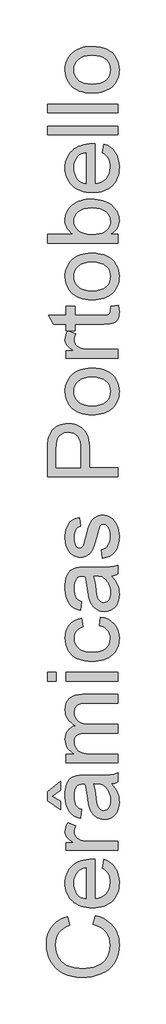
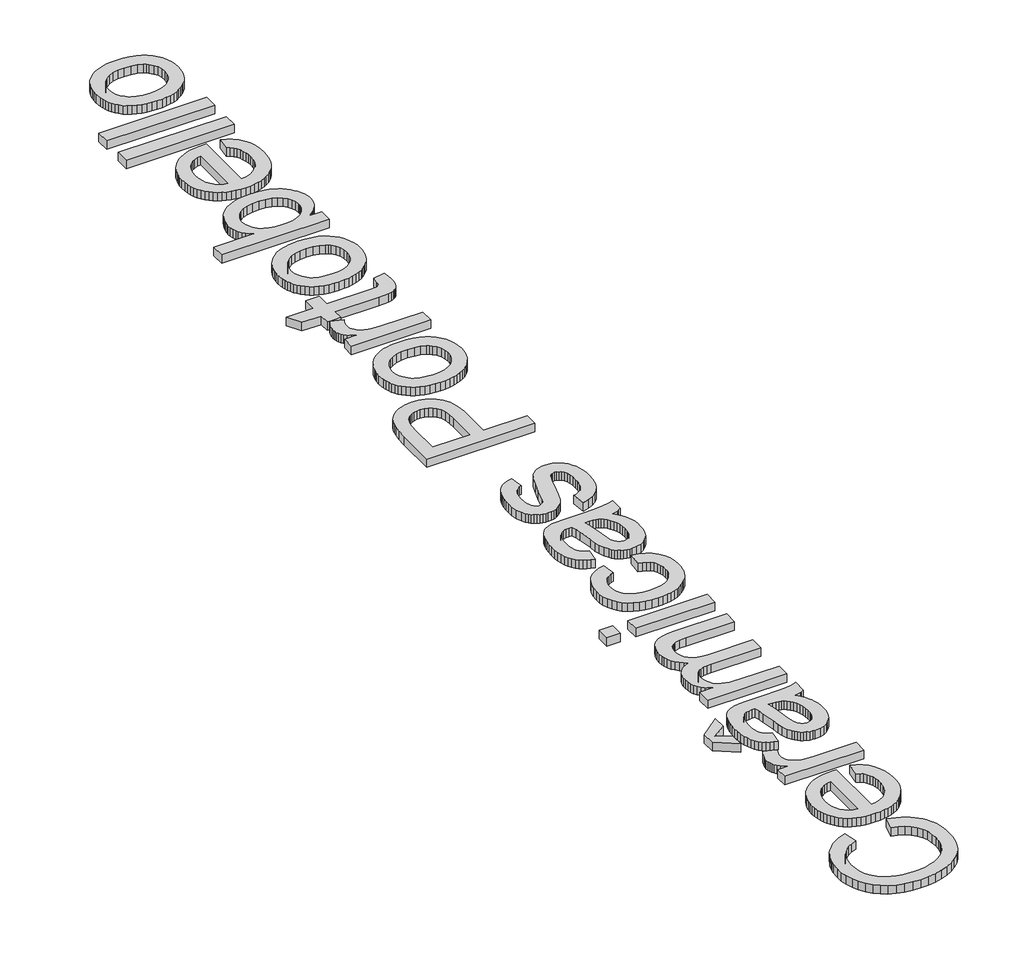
# One storey, part 2 of 4: 1 proxy.
"""IFC4 building model written with IfcOpenShell, lengths in millimetres."""

from ifc_helpers import new_model, si_unit, origin, origin_with_axes, place, context, project, spatial, polyline, outline, extrude, element, save

model = new_model("IFC4")

# Units and contexts
model_context = context("Model", 3, world=origin())
ifc_project = project(units=[si_unit("LENGTHUNIT", "METRE", prefix="MILLI")], contexts=[model_context])

# Site, building, storey
site = spatial("IfcSite", under=ifc_project)
building = spatial("IfcBuilding", under=site)
storey = spatial("IfcBuildingStorey", under=building, Name="PORTOBELLO - SHOWROOM", Elevation=0.0)

# Proxy
placement = place(None, origin())
element("IfcBuildingElementProxy", 1, Name="1200mm Arial", ObjectType="1200mm Arial", at=placement, inside=storey, context=model_context, shape_type="SweptSolid", body=[
    extrude(outline(polyline([(49468.1932002, 14563.7603385), (49507.0415389, 14714.4448038), (49555.3743353, 14700.7733891), (49600.7502802, 14684.6279681), (49643.1693735, 14666.0085406), (49682.6316152, 14644.9151067), (49719.1370055, 14621.3476664), (49752.6855442, 14595.3062196), (49783.2772313, 14566.7907665), (49810.912067, 14535.8013069), (49835.4337012, 14502.6735332), (49856.6857842, 14467.7431378), (49874.668316, 14431.0101206), (49889.3812965, 14392.4744816), (49900.8247258, 14352.1362208), (49908.9986039, 14309.9953383), (49913.9029308, 14266.0518339), (49915.5377064, 14220.3057078), (49910.5896935, 14128.4179825), (49895.745655, 14045.5249719), (49871.0055909, 13971.6266762), (49854.9245492, 13938.0505463), (49836.369501, 13906.7230952), (49792.3524203, 13849.9221151), (49739.4693835, 13800.3316222), (49677.7203906, 13757.9516163), (49607.1054416, 13722.7820976), (49530.6779571, 13695.1633568), (49451.4913577, 13675.4356848), (49369.5456432, 13663.5990816), (49284.8408139, 13659.6535472), (49193.9555669, 13664.1141164), (49109.0667966, 13677.495824), (49030.1745027, 13699.7986699), (48957.2786853, 13731.0226543), (48891.5841581, 13770.4688012), (48834.2957344, 13817.4381349), (48785.4134142, 13871.9306555), (48744.9371977, 13933.9463628), (48713.1981786, 14001.3791325), (48690.5274506, 14072.1228402), (48676.9250139, 14146.1774858), (48672.3908683, 14223.5430694), (48678.2585861, 14309.7286238), (48685.5932334, 14350.1381617), (48695.8617396, 14388.7588734), (48709.0641047, 14425.5907589), (48725.2003287, 14460.6338182), (48744.2704116, 14493.8880513), (48766.2743534, 14525.3534582), (48790.9408412, 14554.7633245), (48817.998562, 14581.8509357), (48847.4475157, 14606.6162917), (48879.2877024, 14629.0593927), (48913.519122, 14649.1802386), (48950.1417746, 14666.9788293), (49030.5607788, 14695.6092456), (49066.4660615, 14544.9247804), (49007.2094691, 14521.1963917), (48956.5797096, 14492.6855371), (48914.5767828, 14459.3922165), (48881.2006887, 14421.31643), (48855.7708458, 14378.2374484), (48837.6066723, 14329.9345424), (48826.7081682, 14276.4077121), (48823.0753335, 14217.6569575), (48827.1036414, 14150.0586409), (48839.1885649, 14088.2360716), (48859.3301041, 14032.1892496), (48887.5282591, 13981.918175), (48922.5138368, 13938.0574441), (48963.0176445, 13901.2416534), (49009.0396821, 13871.470803), (49060.5799496, 13848.7448927), (49115.3023964, 13831.9418826), (49170.8709717, 13819.9397325), (49227.2856757, 13812.7384424), (49284.5465083, 13810.3380124), (49356.5042265, 13813.1799008), (49423.7530552, 13821.7055661), (49486.2929944, 13835.9150081), (49544.1240441, 13855.808227), (49596.0965729, 13881.7071195), (49641.0609498, 13913.9335823), (49679.0171746, 13952.4876154), (49709.9652475, 13997.3692188), (49733.9787447, 14046.3986917), (49751.1312427, 14097.3963333), (49761.4227416, 14150.3621435), (49764.8532412, 14205.2961224), (49760.1811398, 14270.8067087), (49746.1648358, 14331.0749766), (49722.8043291, 14386.100926), (49690.0996197, 14435.884557), (49648.1978605, 14479.2486472), (49597.2462042, 14515.0159742), (49537.2446507, 14543.186538), (49468.1932002, 14563.7603385)])), origin_with_axes(), (0.0, 0.0, 1.0), 100.0),
    extrude(outline(polyline([(49633.0043341, 15522.6079708), (49651.8398922, 15670.34938), (49711.0137112, 15647.6970462), (49763.160984, 15617.1168553), (49808.2817107, 15578.6088075), (49846.3758913, 15532.1729026), (49876.6341854, 15478.2873874), (49898.2472526, 15417.4305084), (49911.2150929, 15349.6022655), (49915.5377064, 15274.8026588), (49913.6730045, 15226.7802629), (49908.0788989, 15181.3054497), (49898.7553896, 15138.3782194), (49885.7024766, 15097.9985719), (49868.9201598, 15060.1665073), (49848.4084393, 15024.8820254), (49824.1673151, 14992.1451264), (49796.1967871, 14961.9558101), (49764.8601389, 14934.8475056), (49730.520654, 14911.3536417), (49693.1783322, 14891.4742184), (49652.8331736, 14875.2092357), (49609.4851783, 14862.5586936), (49563.1343462, 14853.522592), (49513.7806772, 14848.1009311), (49461.4241715, 14846.2937108), (49407.2857374, 14848.1193252), (49356.2651032, 14853.5961684), (49308.3622689, 14862.7242404), (49263.5772345, 14875.5035413), (49221.9100001, 14891.9340709), (49183.3605655, 14912.0158293), (49147.9289308, 14935.7488165), (49115.6150961, 14963.1330325), (49086.7823447, 14993.4281148), (49061.7939602, 15025.8937009), (49040.6499425, 15060.5297907), (49023.3502917, 15097.3363843), (49009.8950077, 15136.3134817), (49000.2840906, 15177.4610829), (48994.5175403, 15220.7791878), (48992.5953569, 15266.2677965), (48994.5129418, 15310.2687824), (49000.2656965, 15352.2142277), (49009.853621, 15392.1041322), (49023.2767153, 15429.9384962), (49040.5349794, 15465.7173195), (49061.6284133, 15499.4406021), (49086.557017, 15531.1083441), (49115.3207905, 15560.7205455), (49147.5610488, 15587.5184496), (49182.9191071, 15610.7432998), (49221.3949653, 15630.3950961), (49262.9886233, 15646.4738385), (49307.7000813, 15658.9795271), (49355.5293392, 15667.9121618), (49406.476397, 15673.2717426), (49460.5412547, 15675.0582696), (49501.155427, 15674.1753528), (49501.155427, 14996.9781761), (49561.2857391, 15005.7061764), (49613.9480467, 15023.0610095), (49659.1423498, 15049.0426754), (49696.8686484, 15083.6511741), (49726.6119078, 15124.9735192), (49747.857093, 15171.0967244), (49760.6042041, 15222.0207896), (49764.8532412, 15277.7457148), (49762.8850725, 15319.4267448), (49756.9805665, 15357.9439897), (49747.1397231, 15393.2974495), (49733.3625424, 15425.487124), (49715.2811423, 15454.5130135), (49692.5276409, 15480.3751177), (49665.1020382, 15503.0734368), (49633.0043341, 15522.6079708)]), holes=[polyline([(49350.4709618, 14996.9781761), (49350.4709618, 15524.3738043), (49307.8334385, 15516.6298883), (49270.861298, 15503.9931418), (49239.5545402, 15486.4635647), (49213.9131652, 15464.0411571), (49183.0110776, 15422.9487383), (49160.9381579, 15376.1909367), (49147.694406, 15323.7677524), (49143.2798221, 15265.6791853), (49146.8022922, 15212.694981), (49157.3697025, 15164.1069665), (49174.982053, 15119.9151418), (49199.6393438, 15080.119507), (49230.2011405, 15046.7250189), (49265.5270091, 15021.7366343), (49305.6169495, 15005.1543534), (49350.4709618, 14996.9781761)])]), origin_with_axes(), (0.0, 0.0, 1.0), 100.0),
    extrude(outline(polyline([(49896.7021482, 15825.7427348), (49011.430915, 15825.7427348), (49011.430915, 15957.5916419), (49142.3969053, 15957.5916419), (49100.5319343, 15982.4236765), (49066.4660615, 16006.299218), (49040.1992871, 16029.2182663), (49021.7316109, 16051.1808214), (49008.9844998, 16073.1801648), (48999.8794204, 16096.2095777), (48994.4163728, 16120.2690601), (48992.5953569, 16145.3586122), (48995.5016246, 16182.7354229), (49004.2204279, 16220.4065392), (49018.7517667, 16258.3719611), (49039.0956411, 16296.6316886), (49174.1819097, 16246.3054317), (49160.6622464, 16219.817928), (49151.005344, 16193.3304244), (49145.2112026, 16166.8429207), (49143.2798221, 16140.3554171), (49145.1376262, 16117.2616248), (49150.7110384, 16095.3634491), (49160.0000588, 16074.6608898), (49173.0046873, 16055.153947), (49189.3018597, 16037.5783847), (49208.4685117, 16022.6699668), (49230.5046432, 16010.4286934), (49255.4102542, 16000.8545645), (49296.5394613, 15990.1675925), (49339.5816547, 15982.5340411), (49431.4050007, 15976.4272), (49896.7021482, 15976.4272), (49896.7021482, 15825.7427348)])), origin_with_axes(), (0.0, 0.0, 1.0), 100.0),
    extrude(outline(polyline([(48766.568659, 16748.6850843), (48917.2531243, 16663.9250726), (48917.2531243, 16513.2406074), (48691.2264264, 16673.3428517), (48691.2264264, 16824.0273169), (48917.2531243, 17002.9651194), (48917.2531243, 16852.2806541), (48766.568659, 16748.6850843)])), origin_with_axes(), (0.0, 0.0, 1.0), 100.0),
    extrude(outline(polyline([(49783.6887993, 16955.876224), (49817.2212432, 16920.1456852), (49845.4193981, 16883.8817175), (49868.2832641, 16847.084321), (49885.8128412, 16809.7534955), (49898.8174697, 16771.4661768), (49908.1064901, 16731.7993007), (49913.6799023, 16690.7528671), (49915.5377064, 16648.326876), (49911.0679401, 16581.2343971), (49897.6586414, 16522.4008691), (49875.3098102, 16471.8262918), (49844.0214465, 16429.5106653), (49805.7801131, 16396.0977831), (49762.5723728, 16372.2314386), (49714.3982255, 16357.911632), (49661.2576713, 16353.1383631), (49629.30712, 16354.9409849), (49598.7913085, 16360.3488502), (49569.7102368, 16369.3619591), (49542.0639049, 16381.9803115), (49516.459318, 16397.5325229), (49493.5034815, 16415.3472085), (49473.1963954, 16435.4243684), (49455.5380596, 16457.7640025), (49426.843264, 16507.6120129), (49406.0947195, 16563.2725587), (49394.5432248, 16617.4983648), (49383.4331886, 16693.6499378), (49359.5944353, 16847.7189174), (49346.1299542, 16907.205436), (49331.6354036, 16954.9933072), (49298.0845657, 16955.876224), (49261.5538836, 16953.2826559), (49230.835737, 16945.5019517), (49205.9301259, 16932.5341114), (49186.8370503, 16914.3791349), (49167.780763, 16882.9988007), (49154.1691292, 16844.7758614), (49146.0021489, 16799.710317), (49143.2798221, 16747.8021675), (49145.0916409, 16699.5360497), (49150.5270974, 16658.0389607), (49159.5861915, 16623.3109003), (49172.2689233, 16595.3518687), (49189.5685741, 16572.3776381), (49212.4784254, 16552.6039809), (49240.9984771, 16536.030897), (49275.1287292, 16522.6583865), (49256.293171, 16371.9739212), (49212.8830956, 16383.4426424), (49173.8876041, 16398.1303311), (49139.3066966, 16416.0369872), (49109.140373, 16437.1626108), (49082.781628, 16462.4177097), (49059.6234564, 16492.7127921), (49039.6658582, 16528.0478577), (49022.9088333, 16568.4229067), (49009.6466874, 16613.0194015), (49000.173726, 16661.0188048), (48994.4899492, 16712.4211166), (48992.5953569, 16767.2263369), (48994.26922, 16820.7991524), (48999.2908092, 16869.0928613), (49007.6601246, 16912.1074636), (49019.3771661, 16949.8429593), (49033.6233964, 16982.612048), (49049.5802779, 17010.7274295), (49067.2478108, 17034.1891037), (49086.6259948, 17052.9970707), (49108.1930768, 17068.2457794), (49132.4273032, 17081.0296787), (49188.8971895, 17099.2030493), (49240.98928, 17104.7212792), (49320.7460966, 17106.5606892), (49508.2187613, 17106.5606892), (49671.521579, 17108.4736756), (49770.0035891, 17114.2126347), (49834.714032, 17125.5434002), (49896.7021482, 17144.2318055), (49896.7021482, 16993.5473403), (49871.5390198, 16980.1564357), (49844.3157521, 16969.4142814), (49783.6887993, 16955.876224)]), holes=[polyline([(49482.3198689, 16955.876224), (49495.3612856, 16910.332433), (49507.4094209, 16854.6350989), (49528.5258475, 16712.7798016), (49540.0773421, 16634.6048776), (49552.9532119, 16583.1381865), (49569.6550545, 16549.4034075), (49592.6844674, 16524.42422), (49620.2756171, 16508.9731762), (49650.6626699, 16503.8228283), (49674.0783588, 16506.6279285), (49695.4706969, 16515.0432292), (49714.8396839, 16529.0687302), (49732.18532, 16548.7044317), (49746.4775355, 16573.7663926), (49756.6862609, 16604.070672), (49762.8114961, 16639.6172698), (49764.8532412, 16680.406186), (49762.5999639, 16722.0504278), (49755.8401323, 16761.3402249), (49744.5737462, 16798.2755772), (49728.8008056, 16832.8564848), (49709.8272917, 16864.052878), (49688.9591856, 16890.8346872), (49666.1964871, 16913.2019125), (49641.5391964, 16931.1545539), (49619.4662767, 16941.5840085), (49592.6844674, 16949.0336189), (49561.1937686, 16953.5033851), (49524.9941803, 16954.9933072), (49482.3198689, 16955.876224)])]), origin_with_axes(), (0.0, 0.0, 1.0), 100.0),
    extrude(outline(polyline([(49896.7021482, 17313.7518289), (49011.430915, 17313.7518289), (49011.430915, 17464.4362941), (49157.1121851, 17464.4362941), (49121.8414988, 17485.4791442), (49090.1944502, 17509.7593559), (49062.1710392, 17537.2769292), (49037.7712659, 17568.031864), (49018.0068057, 17601.5275196), (49003.8893341, 17637.2672554), (48995.4188512, 17675.2510714), (48992.5953569, 17715.4789676), (48995.4740335, 17759.4592601), (49004.1100633, 17799.2824861), (49018.5034464, 17834.9486456), (49038.6541827, 17866.4577384), (49063.9920551, 17893.7177943), (49093.9468466, 17916.6368426), (49128.518557, 17935.2148833), (49167.7071866, 17949.4519166), (49126.6653515, 17975.9486173), (49091.0957611, 18004.3766984), (49060.9984154, 18034.7361601), (49036.3733143, 18067.0270022), (49017.2204579, 18101.2492248), (49003.5398462, 18137.4028279), (48995.3314792, 18175.4878114), (48992.5953569, 18215.5041755), (48997.1478966, 18275.8276256), (49010.8055156, 18328.7750418), (49033.5682141, 18374.3464239), (49065.4359919, 18412.5417721), (49084.8762561, 18428.7170836), (49106.7767311, 18442.7356868), (49157.9583137, 18464.3027688), (49218.9807397, 18477.243018), (49289.844009, 18481.5564344), (49896.7021482, 18481.5564344), (49896.7021482, 18330.8719692), (49354.5912401, 18330.8719692), (49279.4329485, 18327.3770902), (49228.7755978, 18316.8924533), (49210.5010597, 18308.4863497), (49194.0843256, 18297.2475548), (49179.5253957, 18283.1760685), (49166.8242698, 18266.2718908), (49156.5235739, 18247.1512241), (49149.165934, 18226.4302707), (49143.2798221, 18180.1875039), (49147.0506126, 18137.4856013), (49158.3629839, 18098.5544892), (49177.2169362, 18063.3941675), (49203.6124693, 18032.0046363), (49238.3221356, 18006.1885173), (49282.1184871, 17987.7484323), (49335.0015239, 17976.6843812), (49396.971246, 17972.9963642), (49896.7021482, 17972.9963642), (49896.7021482, 17822.311899), (49337.8158212, 17822.311899), (49292.1616656, 17820.1321982), (49252.6143511, 17813.5930957), (49219.1738777, 17802.6945916), (49191.8402455, 17787.4366859), (49170.5950602, 17767.2123732), (49155.4199279, 17741.4146483), (49146.3148486, 17710.0435111), (49143.2798221, 17673.0989618), (49145.3031731, 17643.5028553), (49151.373226, 17615.0471829), (49161.4899809, 17587.7319448), (49175.6534377, 17561.5571408), (49193.7164436, 17537.7183876), (49215.531846, 17517.4113014), (49241.0996446, 17500.6358824), (49270.4198396, 17487.3921306), (49305.0559295, 17477.3489521), (49346.5714126, 17470.1752532), (49394.9662891, 17465.8710339), (49450.2405589, 17464.4362941), (49896.7021482, 17464.4362941), (49896.7021482, 17313.7518289)])), origin_with_axes(), (0.0, 0.0, 1.0), 100.0),
    extrude(outline(polyline([(48841.9108917, 18707.5831322), (48691.2264264, 18707.5831322), (48691.2264264, 18858.2675974), (48841.9108917, 18858.2675974), (48841.9108917, 18707.5831322)])), origin_with_axes(), (0.0, 0.0, 1.0), 100.0),
    extrude(outline(polyline([(49896.7021482, 18707.5831322), (49011.430915, 18707.5831322), (49011.430915, 18858.2675974), (49896.7021482, 18858.2675974), (49896.7021482, 18707.5831322)])), origin_with_axes(), (0.0, 0.0, 1.0), 100.0),
    extrude(outline(polyline([(49576.4976596, 19649.3610399), (49595.3332178, 19800.0455051), (49666.4356104, 19783.6563622), (49729.3526286, 19758.0333812), (49784.0842725, 19723.1765622), (49830.6305419, 19679.0859051), (49867.7774264, 19627.619214), (49894.3109153, 19570.6342929), (49910.2310086, 19508.1311419), (49915.5377064, 19440.109761), (49913.6868001, 19396.7617657), (49908.1340812, 19355.5980697), (49898.8795498, 19316.618673), (49885.9232058, 19279.8235757), (49869.2650492, 19245.2127778), (49848.90508, 19212.7862791), (49824.8432983, 19182.5440799), (49797.0797039, 19154.48618), (49765.8580189, 19129.2057891), (49731.4219648, 19107.296117), (49693.7715419, 19088.7571637), (49652.90675, 19073.5889292), (49608.8275892, 19061.7914135), (49561.5340595, 19053.3646165), (49511.0261608, 19048.3085384), (49457.3038932, 19046.623179), (49388.0225164, 19049.5018556), (49323.2109059, 19058.1378854), (49262.8690617, 19072.5312685), (49206.9969837, 19092.6820048), (49156.716712, 19118.72805), (49113.1502867, 19150.80736), (49076.2977078, 19188.9199347), (49046.1589754, 19233.0657741), (49022.7248923, 19281.2491184), (49005.9862615, 19331.4742078), (48995.943083, 19383.7410423), (48992.5953569, 19438.0496218), (48997.1938818, 19504.9029774), (49010.9894566, 19565.3735804), (49033.9820813, 19619.4614307), (49066.1717559, 19667.1665284), (49106.8227164, 19707.6795332), (49155.1991988, 19740.1911045), (49211.301203, 19764.7012424), (49275.1287292, 19781.2099469), (49293.9642873, 19630.5254817), (49258.7671774, 19618.7624549), (49228.2237748, 19603.1918495), (49202.3340794, 19583.8136654), (49181.0980912, 19560.6279026), (49164.5525985, 19534.2231724), (49152.7343894, 19505.188086), (49145.6434639, 19473.5226432), (49143.2798221, 19439.2268442), (49147.9335293, 19388.0268675), (49161.8946511, 19341.8484801), (49185.1631873, 19300.6916819), (49217.7391379, 19264.5564729), (49237.7059332, 19248.7950287), (49260.3766612, 19235.1351103), (49313.8299151, 19214.1198514), (49378.0988996, 19201.510696), (49453.1836148, 19197.3076442), (49529.3995672, 19201.4187255), (49594.4135128, 19213.7519694), (49648.2254516, 19234.3073759), (49670.9306685, 19247.6683901), (49690.8353837, 19263.0849449), (49723.2181964, 19298.502784), (49746.3487768, 19338.9790005), (49760.2271251, 19384.5135945), (49764.8532412, 19435.1065659), (49761.9653675, 19475.877088), (49753.3017465, 19513.1343371), (49738.8623782, 19546.8783131), (49718.6472626, 19577.109016), (49692.4356704, 19602.9803173), (49660.0068725, 19623.6460884), (49621.3608689, 19639.1063293), (49576.4976596, 19649.3610399)])), origin_with_axes(), (0.0, 0.0, 1.0), 100.0),
    extrude(outline(polyline([(49783.6887993, 20496.9611568), (49817.2212432, 20461.230618), (49845.4193981, 20424.9666503), (49868.2832641, 20388.1692537), (49885.8128412, 20350.8384283), (49898.8174697, 20312.5511096), (49908.1064901, 20272.8842335), (49913.6799023, 20231.8377999), (49915.5377064, 20189.4118088), (49911.0679401, 20122.3193299), (49897.6586414, 20063.4858018), (49875.3098102, 20012.9112246), (49844.0214465, 19970.5955981), (49805.7801131, 19937.1827158), (49762.5723728, 19913.3163714), (49714.3982255, 19898.9965647), (49661.2576713, 19894.2232959), (49629.30712, 19896.0259176), (49598.7913085, 19901.433783), (49569.7102368, 19910.4468918), (49542.0639049, 19923.0652443), (49516.459318, 19938.6174556), (49493.5034815, 19956.4321412), (49473.1963954, 19976.5093011), (49455.5380596, 19998.8489353), (49426.843264, 20048.6969456), (49406.0947195, 20104.3574915), (49394.5432248, 20158.5832976), (49383.4331886, 20234.7348706), (49359.5944353, 20388.8038502), (49346.1299542, 20448.2903688), (49331.6354036, 20496.07824), (49298.0845657, 20496.9611568), (49261.5538836, 20494.3675887), (49230.835737, 20486.5868845), (49205.9301259, 20473.6190442), (49186.8370503, 20455.4640677), (49167.780763, 20424.0837335), (49154.1691292, 20385.8607942), (49146.0021489, 20340.7952498), (49143.2798221, 20288.8871003), (49145.0916409, 20240.6209825), (49150.5270974, 20199.1238935), (49159.5861915, 20164.3958331), (49172.2689233, 20136.4368015), (49189.5685741, 20113.4625709), (49212.4784254, 20093.6889136), (49240.9984771, 20077.1158298), (49275.1287292, 20063.7433192), (49256.293171, 19913.058854), (49212.8830956, 19924.5275752), (49173.8876041, 19939.2152639), (49139.3066966, 19957.12192), (49109.140373, 19978.2475436), (49082.781628, 20003.5026425), (49059.6234564, 20033.7977248), (49039.6658582, 20069.1327905), (49022.9088333, 20109.5078394), (49009.6466874, 20154.1043343), (49000.173726, 20202.1037376), (48994.4899492, 20253.5060494), (48992.5953569, 20308.3112696), (48994.26922, 20361.8840852), (48999.2908092, 20410.1777941), (49007.6601246, 20453.1923964), (49019.3771661, 20490.927892), (49033.6233964, 20523.6969808), (49049.5802779, 20551.8123622), (49067.2478108, 20575.2740365), (49086.6259948, 20594.0820035), (49108.1930768, 20609.3307122), (49132.4273032, 20622.1146115), (49188.8971895, 20640.2879821), (49240.98928, 20645.806212), (49320.7460966, 20647.645622), (49508.2187613, 20647.645622), (49671.521579, 20649.5586084), (49770.0035891, 20655.2975675), (49834.714032, 20666.6283329), (49896.7021482, 20685.3167383), (49896.7021482, 20534.6322731), (49871.5390198, 20521.2413684), (49844.3157521, 20510.4992142), (49783.6887993, 20496.9611568)]), holes=[polyline([(49482.3198689, 20496.9611568), (49495.3612856, 20451.4173658), (49507.4094209, 20395.7200317), (49528.5258475, 20253.8647343), (49540.0773421, 20175.6898104), (49552.9532119, 20124.2231192), (49569.6550545, 20090.4883403), (49592.6844674, 20065.5091528), (49620.2756171, 20050.058109), (49650.6626699, 20044.9077611), (49674.0783588, 20047.7128613), (49695.4706969, 20056.1281619), (49714.8396839, 20070.153663), (49732.18532, 20089.7893645), (49746.4775355, 20114.8513254), (49756.6862609, 20145.1556048), (49762.8114961, 20180.7022026), (49764.8532412, 20221.4911188), (49762.5999639, 20263.1353606), (49755.8401323, 20302.4251577), (49744.5737462, 20339.36051), (49728.8008056, 20373.9414176), (49709.8272917, 20405.1378108), (49688.9591856, 20431.91962), (49666.1964871, 20454.2868453), (49641.5391964, 20472.2394867), (49619.4662767, 20482.6689412), (49592.6844674, 20490.1185516), (49561.1937686, 20494.5883179), (49524.9941803, 20496.07824), (49482.3198689, 20496.9611568)])]), origin_with_axes(), (0.0, 0.0, 1.0), 100.0),
    extrude(outline(polyline([(49633.0043341, 20798.3300872), (49614.1687759, 20949.0145524), (49648.5289543, 20958.1196318), (49678.6217015, 20972.7797293), (49704.4470175, 20992.994845), (49726.0049025, 21018.7649787), (49743.0010506, 21050.163707), (49755.1411565, 21087.2646062), (49762.42522, 21130.0676764), (49764.8532412, 21178.5729174), (49762.6275551, 21227.0229762), (49755.9504969, 21268.7775826), (49744.8220665, 21303.8367368), (49729.242264, 21332.2004386), (49710.6642233, 21354.0894173), (49690.5410781, 21369.7244021), (49668.8728286, 21379.105393), (49645.6594747, 21382.2323899), (49625.3156004, 21379.0869989), (49607.2525944, 21369.6508257), (49591.4704568, 21353.9238704), (49577.9691876, 21331.906133), (49558.8393239, 21275.4730349), (49535.0005706, 21176.8070838), (49495.2325269, 21039.292794), (49461.2770187, 20949.8974692), (49444.2532794, 20919.2069138), (49424.2313018, 20892.4710898), (49401.211086, 20869.6899972), (49375.1926319, 20850.8636361), (49346.9576887, 20836.1207652), (49317.2880058, 20825.590143), (49286.1835831, 20819.2717698), (49253.6444207, 20817.1656454), (49223.8919643, 20818.8579025), (49195.261548, 20823.9346741), (49167.7531718, 20832.39596), (49141.3668357, 20844.2417602), (49116.6359686, 20859.0122223), (49094.0939994, 20876.2474938), (49073.740928, 20895.9475746), (49055.5767545, 20918.1124648), (49031.333331, 20959.7199185), (49010.9894566, 21013.9089364), (48997.1938818, 21076.5592402), (48992.5953569, 21143.5505515), (48994.4439639, 21194.1895081), (48999.989785, 21241.6278914), (49009.2328201, 21285.8657013), (49022.1730693, 21326.9029379), (49038.2679066, 21363.7647138), (49056.974706, 21395.4761418), (49078.2934677, 21422.0372218), (49102.2241914, 21443.4479539), (49129.6038089, 21460.8119841), (49161.2692517, 21475.2329583), (49197.2205196, 21486.7108766), (49237.4576129, 21495.2457389), (49256.293171, 21344.5612736), (49231.1208455, 21337.3783777), (49208.8731818, 21325.5417745), (49189.55018, 21309.0514641), (49173.1518401, 21287.9074464), (49160.0828322, 21262.017751), (49150.7478266, 21231.2904073), (49145.1468232, 21195.7254154), (49143.2798221, 21155.3227753), (49145.0640498, 21108.4546091), (49150.4167328, 21068.7969301), (49159.3378712, 21036.3497381), (49171.8274649, 21011.1130332), (49186.6898975, 20992.1855046), (49202.7295525, 20978.6658412), (49219.9464299, 20970.5540432), (49238.3405297, 20967.8501106), (49261.5170954, 20972.3382709), (49282.1920635, 20985.8027519), (49300.6597396, 21008.8321648), (49315.4485958, 21042.0151208), (49347.5279058, 21171.8038887), (49386.8912793, 21304.9403828), (49418.4555545, 21392.9745442), (49433.851416, 21423.9502082), (49452.3742745, 21451.394205), (49474.0241299, 21475.3065347), (49498.8009822, 21495.6871973), (49526.7416198, 21511.9751726), (49557.8828307, 21523.6094407), (49592.2246149, 21530.5900016), (49629.7669725, 21532.9168552), (49667.474877, 21530.1853314), (49704.0791356, 21521.9907599), (49739.5797481, 21508.3331408), (49773.9767146, 21489.2124741), (49805.8996748, 21464.9414595), (49833.9782681, 21435.8327966), (49858.2124945, 21401.8864855), (49878.6023541, 21363.1025262), (49894.7615707, 21320.5385794), (49906.3038683, 21275.2523058), (49913.2292469, 21227.2437054), (49915.5377064, 21176.5127782), (49911.0863342, 21095.4131924), (49897.7322178, 21024.5775142), (49875.4753571, 20964.0057437), (49861.0083976, 20937.5688239), (49844.3157521, 20913.6978809), (49804.4005556, 20872.605462), (49755.8769205, 20839.6800235), (49698.7448466, 20814.9215652), (49633.0043341, 20798.3300872)])), origin_with_axes(), (0.0, 0.0, 1.0), 100.0),
    extrude(outline(polyline([(49896.7021482, 22192.1613905), (48691.2264264, 22192.1613905), (48691.2264264, 22638.9172855), (48694.095906, 22742.9543137), (48702.7043447, 22819.0323103), (48711.7450447, 22860.9616607), (48724.151865, 22899.3409499), (48739.9248055, 22934.1701778), (48759.0638663, 22965.4493444), (48781.9645205, 22993.5095436), (48809.0222413, 23018.6818691), (48840.2370286, 23040.966321), (48875.6088824, 23060.3628991), (48913.9697775, 23076.0714603), (48954.1516884, 23087.2918612), (48996.1546152, 23094.0241017), (49039.9785579, 23096.2681819), (49113.9780212, 23090.207326), (49148.7566653, 23082.6312562), (49182.0545844, 23072.0247584), (49213.8717785, 23058.3878327), (49244.2082475, 23041.720479), (49273.0639915, 23022.0226975), (49300.4390104, 22999.2944879), (49325.4090009, 22972.611547), (49347.0496592, 22941.0495711), (49365.3609855, 22904.6085602), (49380.3429798, 22863.2885143), (49391.995642, 22817.0894335), (49400.3189721, 22766.0113178), (49405.3129702, 22710.054167), (49406.9776362, 22649.2179813), (49406.9776362, 22342.8458558), (49896.7021482, 22342.8458558), (49896.7021482, 22192.1613905)]), holes=[polyline([(49256.293171, 22342.8458558), (49256.293171, 22658.0471492), (49252.8350803, 22730.5199023), (49242.460808, 22791.6618899), (49225.1703542, 22841.473112), (49200.963719, 22879.9535687), (49170.4846956, 22908.6667584), (49134.3770778, 22929.1761797), (49092.6408655, 22941.4818324), (49045.2760586, 22945.5837167), (49010.1065399, 22943.1648925), (48977.5857715, 22935.9084202), (48947.7137535, 22923.8142996), (48920.4904858, 22906.8825308), (48896.7988853, 22886.0144246), (48877.5218688, 22862.1112919), (48862.6594362, 22835.1731328), (48852.2115875, 22805.1999473), (48844.4860656, 22747.0745921), (48841.9108917, 22654.5154821), (48841.9108917, 22342.8458558), (49256.293171, 22342.8458558)])]), origin_with_axes(), (0.0, 0.0, 1.0), 100.0),
    extrude(outline(polyline([(49454.0665316, 23246.9526471), (49394.7593555, 23248.9897936), (49339.4161078, 23255.1012333), (49288.0367887, 23265.286966), (49240.621398, 23279.5469919), (49197.1699359, 23297.8813108), (49157.6824022, 23320.2899228), (49122.1587971, 23346.772828), (49090.5991204, 23377.3300262), (49067.6294883, 23405.2982549), (49047.7224739, 23434.7564056), (49030.878077, 23465.7044785), (49017.0962978, 23498.1424734), (49006.3771361, 23532.0703904), (48998.7205921, 23567.4882295), (48992.5953569, 23642.7936739), (48994.4600587, 23685.3553215), (49000.0541643, 23725.9258078), (49009.3776736, 23764.5051328), (49022.4305867, 23801.0932964), (49039.2129035, 23835.6902988), (49059.724624, 23868.2961399), (49083.9657482, 23898.9108197), (49111.9362761, 23927.5343382), (49143.1947494, 23953.4355299), (49177.2997096, 23975.8832294), (49214.2511568, 23994.8774367), (49254.0490909, 24010.4181517), (49296.6935119, 24022.5053745), (49342.1844198, 24031.1391051), (49390.5218148, 24036.3193434), (49441.7056966, 24038.0460895), (49522.363824, 24034.992669), (49593.9352662, 24025.8324073), (49656.4200231, 24010.5653045), (49709.8180947, 23989.1913606), (49755.9412998, 23961.97729), (49796.6014573, 23929.1898072), (49831.7985672, 23890.8289121), (49861.5326295, 23846.8946048), (49885.1598506, 23799.0975366), (49902.0364372, 23749.1483587), (49912.1623891, 23697.0470711), (49915.5377064, 23642.7936739), (49913.6799023, 23599.5606417), (49908.1064901, 23558.4475295), (49898.8174697, 23519.4543372), (49885.8128412, 23482.581065), (49869.0926045, 23447.8277128), (49848.6567597, 23415.1942805), (49824.5053067, 23384.6807683), (49796.6382455, 23356.2871761), (49765.2763055, 23330.6618958), (49730.6402156, 23308.4533196), (49692.729976, 23289.6614475), (49651.5455866, 23274.2862793), (49607.0870475, 23262.3278152), (49559.3543587, 23253.7860552), (49508.34752, 23248.6609991), (49454.0665316, 23246.9526471)]), holes=[polyline([(49453.772226, 23397.6371123), (49526.8611814, 23401.996514), (49590.1460816, 23415.0747189), (49643.6269267, 23436.8717271), (49666.6908285, 23451.0397824), (49687.3037166, 23467.3875386), (49721.2316336, 23504.5068319), (49745.46586, 23546.1142856), (49760.0063959, 23592.2098996), (49764.8532412, 23642.7936739), (49759.9788047, 23693.1199308), (49745.3554954, 23739.0316038), (49720.9833132, 23780.5286929), (49686.8622582, 23817.611198), (49666.0861225, 23833.9589542), (49642.753207, 23848.1270095), (49588.4170363, 23869.9240177), (49523.8537461, 23883.0022227), (49449.0633365, 23887.3616243), (49378.2920377, 23882.9746315), (49316.6626064, 23869.8136531), (49264.1750428, 23847.8786892), (49220.8293467, 23817.1697396), (49186.9014297, 23779.9492788), (49162.6672033, 23738.4797809), (49148.1266674, 23692.7612459), (49143.2798221, 23642.7936739), (49148.1082733, 23592.2098996), (49162.5936269, 23546.1142856), (49186.7358828, 23504.5068319), (49220.5350411, 23467.3875386), (49241.0789513, 23451.0397824), (49264.0830723, 23436.8717271), (49317.4719468, 23415.0747189), (49380.7016647, 23401.996514), (49453.772226, 23397.6371123)])]), origin_with_axes(), (0.0, 0.0, 1.0), 100.0),
    extrude(outline(polyline([(49771.0336587, 25092.8373461), (49901.1167322, 25111.6729043), (49911.9324628, 25052.0024446), (49915.5377064, 24998.9538609), (49913.9742079, 24960.4917983), (49909.2837125, 24926.6282607), (49901.4662201, 24897.363248), (49890.5217307, 24872.6967602), (49877.0388556, 24851.9850039), (49861.6062059, 24834.5841855), (49844.2237816, 24820.4943051), (49824.8915828, 24809.7153626), (49798.9742962, 24801.7323233), (49761.8366088, 24796.0301524), (49653.9000314, 24791.4684156), (49162.1153803, 24791.4684156), (49162.1153803, 24678.4550667), (49039.0956411, 24678.4550667), (49011.430915, 24678.4550667), (49011.430915, 24791.4684156), (48796.2935243, 24791.4684156), (48707.7075398, 24942.1528809), (49011.430915, 24942.1528809), (49011.430915, 25092.8373461), (49162.1153803, 25092.8373461), (49162.1153803, 24942.1528809), (49649.4854475, 24942.1528809), (49699.0759404, 24944.1394436), (49727.1821249, 24950.099132), (49742.7435332, 24960.5101924), (49754.6996981, 24975.8508716), (49762.3148554, 24997.5926975), (49764.8532412, 25027.2071982), (49771.0336587, 25092.8373461)])), origin_with_axes(), (0.0, 0.0, 1.0), 100.0),
    extrude(outline(polyline([(49896.7021482, 24207.5661129), (49011.430915, 24207.5661129), (49011.430915, 24339.41502), (49142.3969053, 24339.41502), (49100.5319343, 24364.2470547), (49066.4660615, 24388.1225961), (49040.1992871, 24411.0416444), (49021.7316109, 24433.0041995), (49008.9844998, 24455.0035429), (48999.8794204, 24478.0329558), (48994.4163728, 24502.0924382), (48992.5953569, 24527.1819903), (48995.5016246, 24564.558801), (49004.2204279, 24602.2299173), (49018.7517667, 24640.1953392), (49039.0956411, 24678.4550667), (49174.1819097, 24628.1288098), (49160.6622464, 24601.6413061), (49151.005344, 24575.1538025), (49145.2112026, 24548.6662988), (49143.2798221, 24522.1787952), (49145.1376262, 24499.0850029), (49150.7110384, 24477.1868272), (49160.0000588, 24456.4842679), (49173.0046873, 24436.9773251), (49189.3018597, 24419.4017628), (49208.4685117, 24404.4933449), (49230.5046432, 24392.2520715), (49255.4102542, 24382.6779426), (49296.5394613, 24371.9909706), (49339.5816547, 24364.3574192), (49431.4050007, 24358.2505781), (49896.7021482, 24358.2505781), (49896.7021482, 24207.5661129)])), origin_with_axes(), (0.0, 0.0, 1.0), 100.0),
    extrude(outline(polyline([(49454.0665316, 25205.850695), (49394.7593555, 25207.8878416), (49339.4161078, 25213.9992812), (49288.0367887, 25224.185014), (49240.621398, 25238.4450398), (49197.1699359, 25256.7793587), (49157.6824022, 25279.1879708), (49122.1587971, 25305.6708759), (49090.5991204, 25336.2280741), (49067.6294883, 25364.1963028), (49047.7224739, 25393.6544536), (49030.878077, 25424.6025264), (49017.0962978, 25457.0405213), (49006.3771361, 25490.9684383), (48998.7205921, 25526.3862774), (48992.5953569, 25601.6917218), (48994.4600587, 25644.2533694), (49000.0541643, 25684.8238557), (49009.3776736, 25723.4031807), (49022.4305867, 25759.9913444), (49039.2129035, 25794.5883467), (49059.724624, 25827.1941878), (49083.9657482, 25857.8088676), (49111.9362761, 25886.4323861), (49143.1947494, 25912.3335778), (49177.2997096, 25934.7812773), (49214.2511568, 25953.7754846), (49254.0490909, 25969.3161996), (49296.6935119, 25981.4034224), (49342.1844198, 25990.037153), (49390.5218148, 25995.2173913), (49441.7056966, 25996.9441374), (49522.363824, 25993.8907169), (49593.9352662, 25984.7304552), (49656.4200231, 25969.4633524), (49709.8180947, 25948.0894085), (49755.9412998, 25920.8753379), (49796.6014573, 25888.0878551), (49831.7985672, 25849.72696), (49861.5326295, 25805.7926528), (49885.1598506, 25757.9955845), (49902.0364372, 25708.0464066), (49912.1623891, 25655.9451191), (49915.5377064, 25601.6917218), (49913.6799023, 25558.4586896), (49908.1064901, 25517.3455774), (49898.8174697, 25478.3523852), (49885.8128412, 25441.4791129), (49869.0926045, 25406.7257607), (49848.6567597, 25374.0923285), (49824.5053067, 25343.5788162), (49796.6382455, 25315.185224), (49765.2763055, 25289.5599438), (49730.6402156, 25267.3513676), (49692.729976, 25248.5594954), (49651.5455866, 25233.1843273), (49607.0870475, 25221.2258632), (49559.3543587, 25212.6841031), (49508.34752, 25207.559047), (49454.0665316, 25205.850695)]), holes=[polyline([(49453.772226, 25356.5351602), (49526.8611814, 25360.8945619), (49590.1460816, 25373.9727668), (49643.6269267, 25395.769775), (49666.6908285, 25409.9378304), (49687.3037166, 25426.2855865), (49721.2316336, 25463.4048798), (49745.46586, 25505.0123335), (49760.0063959, 25551.1079475), (49764.8532412, 25601.6917218), (49759.9788047, 25652.0179788), (49745.3554954, 25697.9296518), (49720.9833132, 25739.4267408), (49686.8622582, 25776.5092459), (49666.0861225, 25792.8570021), (49642.753207, 25807.0250574), (49588.4170363, 25828.8220656), (49523.8537461, 25841.9002706), (49449.0633365, 25846.2596722), (49378.2920377, 25841.8726794), (49316.6626064, 25828.7117011), (49264.1750428, 25806.7767371), (49220.8293467, 25776.0677875), (49186.9014297, 25738.8473267), (49162.6672033, 25697.3778288), (49148.1266674, 25651.6592938), (49143.2798221, 25601.6917218), (49148.1082733, 25551.1079475), (49162.5936269, 25505.0123335), (49186.7358828, 25463.4048798), (49220.5350411, 25426.2855865), (49241.0789513, 25409.9378304), (49264.0830723, 25395.769775), (49317.4719468, 25373.9727668), (49380.7016647, 25360.8945619), (49453.772226, 25356.5351602)])]), origin_with_axes(), (0.0, 0.0, 1.0), 100.0),
    extrude(outline(polyline([(49896.7021482, 26317.148626), (49896.7021482, 26166.4641608), (48691.2264264, 26166.4641608), (48691.2264264, 26317.148626), (49138.276627, 26317.148626), (49104.1325793, 26341.1253351), (49074.5410713, 26366.7023308), (49049.502103, 26393.8796132), (49029.0156744, 26422.6571823), (49013.0817855, 26453.035038), (49001.7004363, 26485.0131804), (48994.8716267, 26518.5916096), (48992.5953569, 26553.7703253), (48994.646299, 26593.1153047), (49000.7991254, 26631.3934263), (49011.053836, 26668.6046901), (49025.4104309, 26704.7490962), (49043.4826339, 26738.7781807), (49064.8841689, 26769.6434801), (49089.6150361, 26797.3449944), (49117.6752352, 26821.8827234), (49148.9360078, 26843.5969582), (49183.268595, 26862.8279895), (49220.6729968, 26879.5758173), (49261.1492134, 26893.8404417), (49303.8879042, 26905.2355865), (49348.0797288, 26913.3749756), (49393.7246874, 26918.2586091), (49440.8227798, 26919.8864869), (49495.9406997, 26918.2011276), (49547.8396522, 26913.1450494), (49596.5196372, 26904.7182524), (49641.9806548, 26892.9207367), (49684.2227049, 26877.7525022), (49723.2457875, 26859.2135489), (49759.0499027, 26837.3038768), (49791.6350504, 26812.023486), (49820.6747354, 26784.3794533), (49845.8424624, 26755.3788558), (49867.1382314, 26725.0216934), (49884.5620424, 26693.3079661), (49898.1138954, 26660.237674), (49907.7937904, 26625.8108171), (49913.6017274, 26590.0273952), (49915.5377064, 26552.8874086), (49913.0407073, 26516.370522), (49905.5497102, 26481.8677894), (49893.064715, 26449.3792107), (49875.5857217, 26418.9047859), (49853.1127303, 26390.4445151), (49825.6457409, 26363.9983981), (49793.1847533, 26339.5664351), (49755.7297677, 26317.148626), (49896.7021482, 26317.148626)]), holes=[polyline([(49447.8861141, 26317.148626), (49515.7971304, 26319.7238), (49573.5546037, 26327.4493219), (49621.1585338, 26340.3251917), (49658.608921, 26358.3514095), (49683.5099335, 26375.867191), (49705.090811, 26394.8636975), (49723.3515536, 26415.3409291), (49738.2921611, 26437.2988857), (49749.9126336, 26460.7375673), (49758.2129711, 26485.6569739), (49763.1931737, 26512.0571056), (49764.8532412, 26539.9379623), (49759.9604106, 26585.0035067), (49745.281919, 26626.905266), (49720.8177663, 26665.6432401), (49686.5679526, 26701.217429), (49642.6244483, 26730.9606883), (49589.0792239, 26752.2058735), (49525.9322794, 26764.9529847), (49453.1836148, 26769.2020217), (49379.0553928, 26765.1277286), (49315.3014431, 26752.9048493), (49261.9217656, 26732.5333839), (49218.9163603, 26704.0133322), (49185.8253748, 26669.7175332), (49162.1889567, 26632.0188257), (49148.0071057, 26590.9172098), (49143.2798221, 26546.4126854), (49148.1726526, 26501.347141), (49162.8511442, 26459.4453818), (49187.3152969, 26420.7074077), (49221.5651107, 26385.1332188), (49265.0671566, 26355.3899594), (49317.2880058, 26334.1447742), (49378.2276583, 26321.3976631), (49447.8861141, 26317.148626)])]), origin_with_axes(), (0.0, 0.0, 1.0), 100.0),
    extrude(outline(polyline([(49633.0043341, 27709.2140958), (49651.8398922, 27856.9555051), (49711.0137112, 27834.3031712), (49763.160984, 27803.7229804), (49808.2817107, 27765.2149325), (49846.3758913, 27718.7790277), (49876.6341854, 27664.8935124), (49898.2472526, 27604.0366334), (49911.2150929, 27536.2083905), (49915.5377064, 27461.4087838), (49913.6730045, 27413.3863879), (49908.0788989, 27367.9115748), (49898.7553896, 27324.9843445), (49885.7024766, 27284.604697), (49868.9201598, 27246.7726323), (49848.4084393, 27211.4881504), (49824.1673151, 27178.7512514), (49796.1967871, 27148.5619351), (49764.8601389, 27121.4536306), (49730.520654, 27097.9597667), (49693.1783322, 27078.0803434), (49652.8331736, 27061.8153607), (49609.4851783, 27049.1648186), (49563.1343462, 27040.1287171), (49513.7806772, 27034.7070562), (49461.4241715, 27032.8998359), (49407.2857374, 27034.7254503), (49356.2651032, 27040.2022935), (49308.3622689, 27049.3303655), (49263.5772345, 27062.1096663), (49221.9100001, 27078.5401959), (49183.3605655, 27098.6219543), (49147.9289308, 27122.3549415), (49115.6150961, 27149.7391575), (49086.7823447, 27180.0342398), (49061.7939602, 27212.4998259), (49040.6499425, 27247.1359158), (49023.3502917, 27283.9425094), (49009.8950077, 27322.9196068), (49000.2840906, 27364.0672079), (48994.5175403, 27407.3853129), (48992.5953569, 27452.8739216), (48994.5129418, 27496.8749074), (49000.2656965, 27538.8203527), (49009.853621, 27578.7102573), (49023.2767153, 27616.5446212), (49040.5349794, 27652.3234445), (49061.6284133, 27686.0467271), (49086.557017, 27717.7144691), (49115.3207905, 27747.3266705), (49147.5610488, 27774.1245746), (49182.9191071, 27797.3494248), (49221.3949653, 27817.0012211), (49262.9886233, 27833.0799636), (49307.7000813, 27845.5856521), (49355.5293392, 27854.5182868), (49406.476397, 27859.8778677), (49460.5412547, 27861.6643946), (49501.155427, 27860.7814778), (49501.155427, 27183.5843011), (49561.2857391, 27192.3123014), (49613.9480467, 27209.6671345), (49659.1423498, 27235.6488005), (49696.8686484, 27270.2572992), (49726.6119078, 27311.5796443), (49747.857093, 27357.7028494), (49760.6042041, 27408.6269146), (49764.8532412, 27464.3518398), (49762.8850725, 27506.0328699), (49756.9805665, 27544.5501148), (49747.1397231, 27579.9035745), (49733.3625424, 27612.0932491), (49715.2811423, 27641.1191385), (49692.5276409, 27666.9812427), (49665.1020382, 27689.6795619), (49633.0043341, 27709.2140958)]), holes=[polyline([(49350.4709618, 27183.5843011), (49350.4709618, 27710.9799294), (49307.8334385, 27703.2360134), (49270.861298, 27690.5992668), (49239.5545402, 27673.0696898), (49213.9131652, 27650.6472822), (49183.0110776, 27609.5548633), (49160.9381579, 27562.7970617), (49147.694406, 27510.3738774), (49143.2798221, 27452.2853104), (49146.8022922, 27399.301106), (49157.3697025, 27350.7130915), (49174.982053, 27306.5212668), (49199.6393438, 27266.725632), (49230.2011405, 27233.3311439), (49265.5270091, 27208.3427594), (49305.6169495, 27191.7604784), (49350.4709618, 27183.5843011)])]), origin_with_axes(), (0.0, 0.0, 1.0), 100.0),
    extrude(outline(polyline([(49896.7021482, 28012.3488598), (48691.2264264, 28012.3488598), (48691.2264264, 28163.033325), (49896.7021482, 28163.033325), (49896.7021482, 28012.3488598)])), origin_with_axes(), (0.0, 0.0, 1.0), 100.0),
    extrude(outline(polyline([(49896.7021482, 28389.0600229), (48691.2264264, 28389.0600229), (48691.2264264, 28539.7444881), (49896.7021482, 28539.7444881), (49896.7021482, 28389.0600229)])), origin_with_axes(), (0.0, 0.0, 1.0), 100.0),
    extrude(outline(polyline([(49454.0665316, 28728.1000696), (49394.7593555, 28730.1372162), (49339.4161078, 28736.2486558), (49288.0367887, 28746.4343886), (49240.621398, 28760.6944144), (49197.1699359, 28779.0287333), (49157.6824022, 28801.4373454), (49122.1587971, 28827.9202505), (49090.5991204, 28858.4774487), (49067.6294883, 28886.4456774), (49047.7224739, 28915.9038282), (49030.878077, 28946.851901), (49017.0962978, 28979.2898959), (49006.3771361, 29013.2178129), (48998.7205921, 29048.635652), (48992.5953569, 29123.9410964), (48994.4600587, 29166.502744), (49000.0541643, 29207.0732303), (49009.3776736, 29245.6525553), (49022.4305867, 29282.240719), (49039.2129035, 29316.8377214), (49059.724624, 29349.4435624), (49083.9657482, 29380.0582422), (49111.9362761, 29408.6817607), (49143.1947494, 29434.5829524), (49177.2997096, 29457.0306519), (49214.2511568, 29476.0248592), (49254.0490909, 29491.5655742), (49296.6935119, 29503.652797), (49342.1844198, 29512.2865276), (49390.5218148, 29517.466766), (49441.7056966, 29519.1935121), (49522.363824, 29516.1400915), (49593.9352662, 29506.9798298), (49656.4200231, 29491.712727), (49709.8180947, 29470.3387831), (49755.9412998, 29443.1247125), (49796.6014573, 29410.3372297), (49831.7985672, 29371.9763346), (49861.5326295, 29328.0420274), (49885.1598506, 29280.2449591), (49902.0364372, 29230.2957813), (49912.1623891, 29178.1944937), (49915.5377064, 29123.9410964), (49913.6799023, 29080.7080642), (49908.1064901, 29039.594952), (49898.8174697, 29000.6017598), (49885.8128412, 28963.7284875), (49869.0926045, 28928.9751353), (49848.6567597, 28896.3417031), (49824.5053067, 28865.8281908), (49796.6382455, 28837.4345986), (49765.2763055, 28811.8093184), (49730.6402156, 28789.6007422), (49692.729976, 28770.80887), (49651.5455866, 28755.4337019), (49607.0870475, 28743.4752378), (49559.3543587, 28734.9334777), (49508.34752, 28729.8084217), (49454.0665316, 28728.1000696)]), holes=[polyline([(49453.772226, 28878.7845349), (49526.8611814, 28883.1439365), (49590.1460816, 28896.2221414), (49643.6269267, 28918.0191496), (49666.6908285, 28932.187205), (49687.3037166, 28948.5349611), (49721.2316336, 28985.6542545), (49745.46586, 29027.2617081), (49760.0063959, 29073.3573221), (49764.8532412, 29123.9410964), (49759.9788047, 29174.2673534), (49745.3554954, 29220.1790264), (49720.9833132, 29261.6761154), (49686.8622582, 29298.7586206), (49666.0861225, 29315.1063767), (49642.753207, 29329.2744321), (49588.4170363, 29351.0714403), (49523.8537461, 29364.1496452), (49449.0633365, 29368.5090468), (49378.2920377, 29364.122054), (49316.6626064, 29350.9610757), (49264.1750428, 29329.0261117), (49220.8293467, 29298.3171622), (49186.9014297, 29261.0967013), (49162.6672033, 29219.6272034), (49148.1266674, 29173.9086684), (49143.2798221, 29123.9410964), (49148.1082733, 29073.3573221), (49162.5936269, 29027.2617081), (49186.7358828, 28985.6542545), (49220.5350411, 28948.5349611), (49241.0789513, 28932.187205), (49264.0830723, 28918.0191496), (49317.4719468, 28896.2221414), (49380.7016647, 28883.1439365), (49453.772226, 28878.7845349)])]), origin_with_axes(), (0.0, 0.0, 1.0), 100.0),
])

save(model, "model.ifc")
